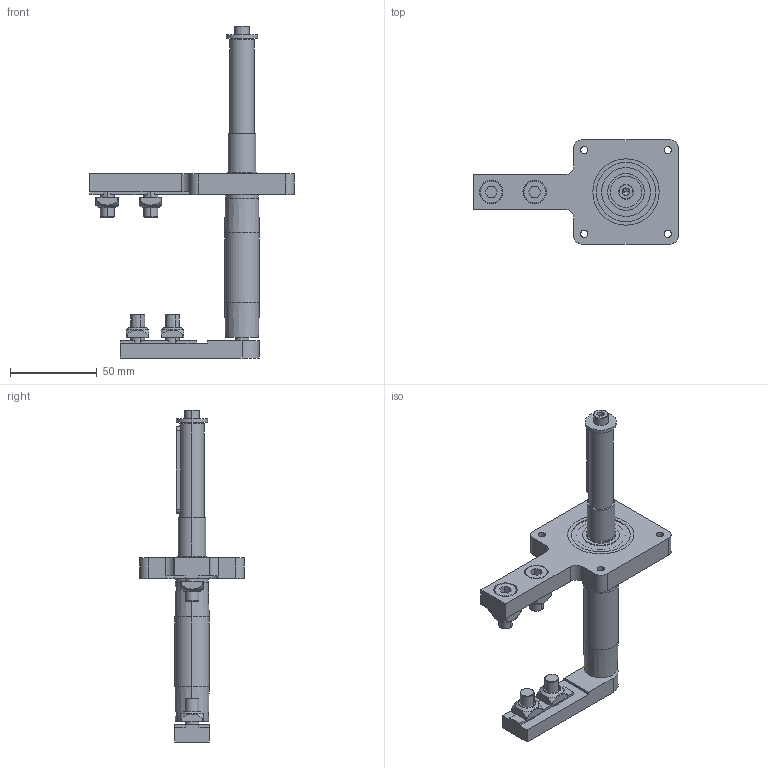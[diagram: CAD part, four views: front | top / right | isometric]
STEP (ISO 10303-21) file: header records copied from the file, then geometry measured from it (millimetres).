
FILE_DESCRIPTION (( 'STEP AP214' ), '1' );
FILE_NAME ('084.020.KD.30.060.STEP', '2021-02-05T13:40:29', ( '' ), ( '' ), 'SwSTEP 2.0', 'SolidWorks 2018', '' );
FILE_SCHEMA (( 'AUTOMOTIVE_DESIGN' ));
Length unit declared in the file: millimetre
Products named in the file (14): 084.302.000 DADI ALUSIC 13x13-1_084.302.004; CHIAVETTE_A 5x5x50 UNI 6604-69; Washer ISO 7094 - 5_Washer ISO 7094 - 5; 084.800.008; 084.800.012; 084.800.002; 084.802.016_084.802.016; 084.301.000 VITI ALUSIC_084.301.003; 084.800.048; 084.800.007; Circlip DIN 471 - 8 x 0.8_Circlip DIN 471 - 8 x 0.8; 084.020.KD.30.060; ISO 4762 M5 x 16 --- 16S_ISO 4762 M5 x 16 --- 16S; 084.800.001-1
Assembly tree (20 placements, depth 2):
  084.020.KD.30.060
    084.800.048
    084.800.001-1
    084.802.016_084.802.016
    084.301.000 VITI ALUSIC_084.301.003  x4
    084.302.000 DADI ALUSIC 13x13-1_084.302.004  x4
    084.800.012  x2
    084.800.008
    084.800.002
    084.800.007
    Washer ISO 7094 - 5_Washer ISO 7094 - 5
    ISO 4762 M5 x 16 --- 16S_ISO 4762 M5 x 16 --- 16S
    CHIAVETTE_A 5x5x50 UNI 6604-69
    Circlip DIN 471 - 8 x 0.8_Circlip DIN 471 - 8 x 0.8
Bounding box: 117.5 x 60 x 190.9 mm (x, y, z)
Volume: 107379.8 mm3; surface area: 54089.1 mm2
Topology: 21 solids, 22 shells, 600 faces, 1455 edges, 920 vertices
Faces by surface type: cylinder 209, plane 187, cone 106, torus 78, bspline 16, sphere 4
Entity records: 14277 total; most frequent: CARTESIAN_POINT 2672, DIRECTION 2508, ORIENTED_EDGE 2132, EDGE_CURVE 1066, AXIS2_PLACEMENT_3D 1019, VERTEX_POINT 677, CIRCLE 560, EDGE_LOOP 493
